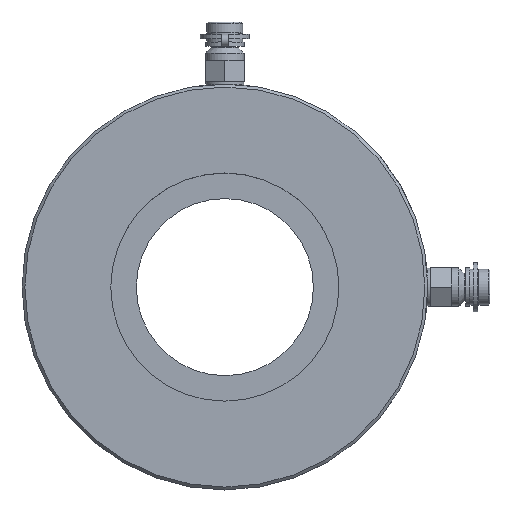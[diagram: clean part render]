
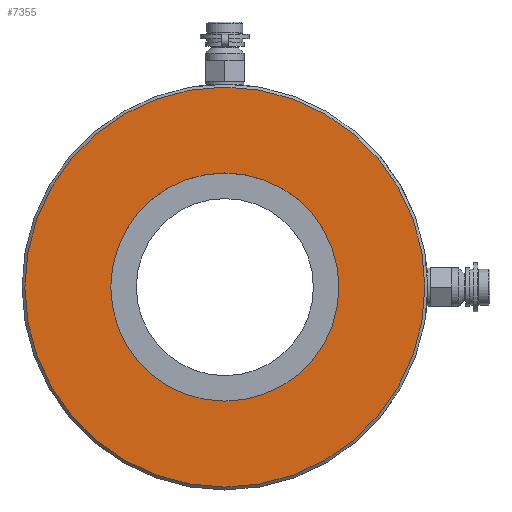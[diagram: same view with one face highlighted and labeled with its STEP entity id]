
A CAD part, top view. The second image highlights one B-rep face of the part: STEP entity #7355.
In plain terms, the highlighted planar face has unit normal (0, 0, 1).
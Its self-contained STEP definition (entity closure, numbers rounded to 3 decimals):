
#7321=CARTESIAN_POINT('',(71.0,0.,9.0));
#7322=VERTEX_POINT('',#7321);
#7323=CARTESIAN_POINT('',(0.0,0.0,9.0));
#7324=DIRECTION('',(0.0,0.0,-1.0));
#7325=DIRECTION('',(-1.0,0.0,0.0));
#7326=AXIS2_PLACEMENT_3D('',#7323,#7324,#7325);
#7327=CIRCLE('',#7326,71.0);
#7328=EDGE_CURVE('',#7322,#7322,#7327,.T.);
#7336=CARTESIAN_POINT('',(0.0,0.0,9.0));
#7337=DIRECTION('',(0.0,0.0,-1.0));
#7338=DIRECTION('',(-1.0,0.0,0.0));
#7339=AXIS2_PLACEMENT_3D('',#7336,#7337,#7338);
#7340=PLANE('',#7339);
#7341=ORIENTED_EDGE('',*,*,#7328,.F.);
#7342=EDGE_LOOP('',(#7341));
#7343=FACE_OUTER_BOUND('',#7342,.T.);
#7344=CARTESIAN_POINT('',(40.5,0.,9.0));
#7345=VERTEX_POINT('',#7344);
#7346=CARTESIAN_POINT('',(0.0,0.0,9.0));
#7347=DIRECTION('',(0.0,0.0,-1.0));
#7348=DIRECTION('',(-1.0,0.0,0.0));
#7349=AXIS2_PLACEMENT_3D('',#7346,#7347,#7348);
#7350=CIRCLE('',#7349,40.5);
#7351=EDGE_CURVE('',#7345,#7345,#7350,.T.);
#7352=ORIENTED_EDGE('',*,*,#7351,.T.);
#7353=EDGE_LOOP('',(#7352));
#7354=FACE_BOUND('',#7353,.T.);
#7355=ADVANCED_FACE('',(#7343,#7354),#7340,.F.);
